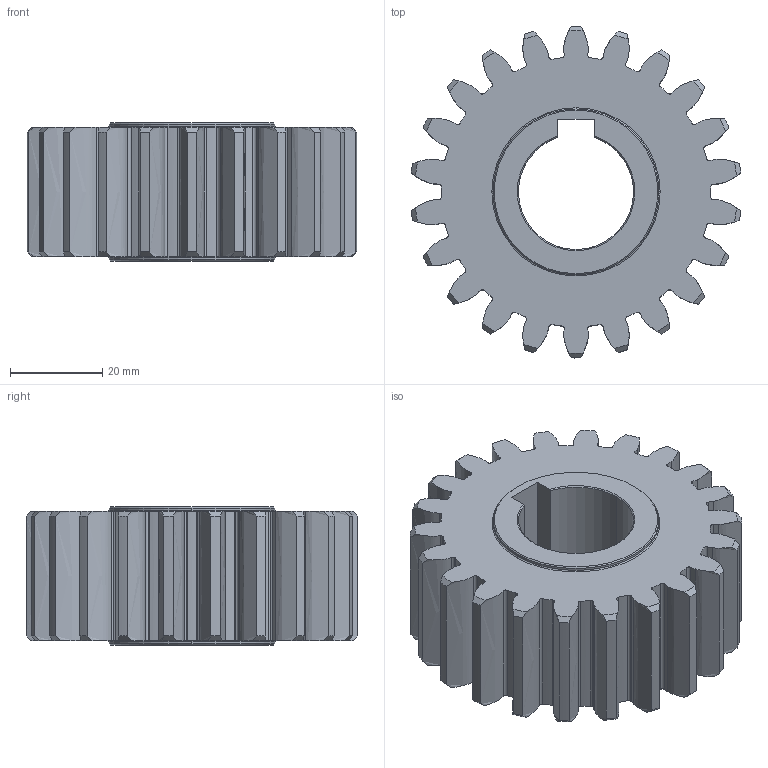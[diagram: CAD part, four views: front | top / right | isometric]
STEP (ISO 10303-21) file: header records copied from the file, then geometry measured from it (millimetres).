
FILE_DESCRIPTION (( 'STEP AP214' ), '1' );
FILE_NAME ('1SG__S030022S.STEP', '2021-08-03T07:47:58', ( '' ), ( '' ), 'SwSTEP 2.0', 'SolidWorks 2021', '' );
FILE_SCHEMA (( 'AUTOMOTIVE_DESIGN' ));
Length unit declared in the file: millimetre
Products named in the file (1): 1SG__S030022S
Bounding box: 71.54 x 72 x 30 mm (x, y, z)
Volume: 80275.1 mm3; surface area: 20148.3 mm2
Topology: 1 solids, 1 shells, 238 faces, 734 edges, 500 vertices
Faces by surface type: cylinder 85, bspline 66, cone 54, plane 29, torus 4
Entity records: 14598 total; most frequent: CARTESIAN_POINT 8261, ORIENTED_EDGE 1468, DIRECTION 1176, EDGE_CURVE 734, VERTEX_POINT 500, AXIS2_PLACEMENT_3D 449, LINE 278, VECTOR 278
